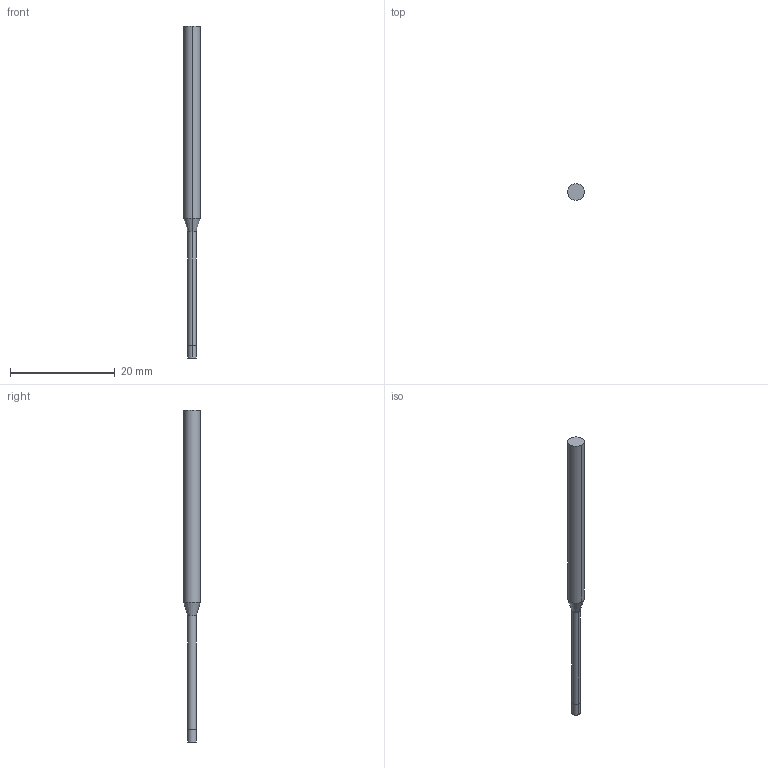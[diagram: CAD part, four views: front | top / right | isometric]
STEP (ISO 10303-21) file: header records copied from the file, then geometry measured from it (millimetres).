
FILE_DESCRIPTION((' '),'2;1');
FILE_NAME( '3MVS0625N15AH.stp', '2026-01-21T19:07:48', (' '), ('--- Datakit www.datakit.com---'), ' Datakit CrossCadWare V2025.4 Sep 19 2025', 'Mastercam 2027', ' ');
FILE_SCHEMA(('AUTOMOTIVE_DESIGN { 1 0 10303 214 1 1 1 1 }'));
Length unit declared in the file: inch
Products named in the file (1): 3MVS0625N15AH
Bounding box: 3.17 x 3.17 x 63.5 mm (x, y, z)
Volume: 350.9 mm3; surface area: 517.4 mm2
Topology: 1 solids, 1 shells, 10 faces, 18 edges, 10 vertices
Faces by surface type: cylinder 6, plane 2, cone 2
Entity records: 323 total; most frequent: DIRECTION 58, CARTESIAN_POINT 43, ORIENTED_EDGE 36, AXIS2_PLACEMENT_3D 25, EDGE_CURVE 18, VERTEX_POINT 10, CIRCLE 10, EDGE_LOOP 10
